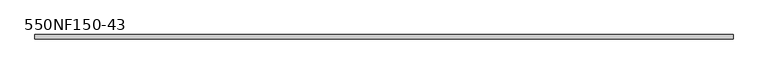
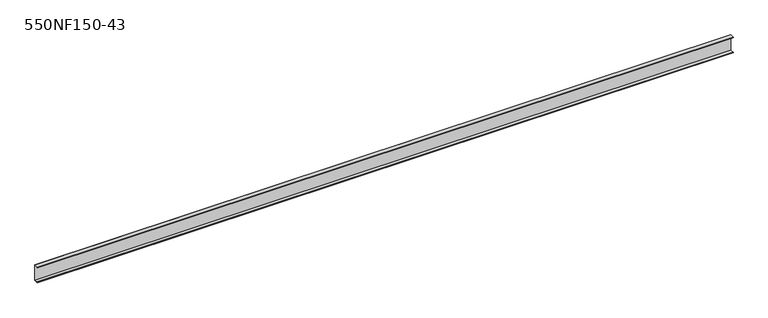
"""IFC4 building model written with IfcOpenShell, lengths in millimetres: beam geometry, BIMSF-SSMA-S : 550NF150-43."""

from ifc_helpers import new_model, si_unit, frame, origin, place, context, project, spatial, polyline, outline, extrude, source, transform, mapped, element, save


def beam_550nf150_43_4f54639b(model_context):
    return source(origin(), model_context, "Body", "SweptSolid", [
        extrude(outline(polyline([(19.05, 69.85), (19.05, -69.85), (-19.05, -69.85), (-19.05, -65.0748), (-17.9003158, -65.0748), (-17.9003158, -68.7003158), (17.9003158, -68.7003158), (17.9003158, 68.7003158), (-17.9003158, 68.7003158), (-17.9003158, 65.0748), (-19.05, 65.0748), (-19.05, 69.85), (19.05, 69.85)])), frame((-3004.8646532, 0.0, 0.0), z_axis=(1.0, 0.0, 0.0), x_axis=(0.0, 1.0, 0.0)), (0.0, 0.0, 1.0), 6009.7293064),
    ])


if __name__ == "__main__":
    model = new_model("IFC4")
    model_context = context("Model", 3, world=origin())
    ifc_project = project(units=[si_unit("LENGTHUNIT", "METRE", prefix="MILLI")], contexts=[model_context])
    site = spatial("IfcSite", under=ifc_project)
    building = spatial("IfcBuilding", under=site)
    placement = place(None, origin())
    beam_550nf150_43_shape = beam_550nf150_43_4f54639b(model_context)
    element("IfcBeam", 1, ObjectType="BIMSF-SSMA-S : 550NF150-43", at=placement, inside=building, context=model_context, shape_type="MappedRepresentation", body=[
        mapped(beam_550nf150_43_shape, transform((0.0, 0.0, 0.0), x_axis=(1.0, 0.0, 0.0), y_axis=(0.0, 1.0, 0.0), z_axis=(0.0, 0.0, 1.0))),
    ])
    save(model, "model.ifc")
